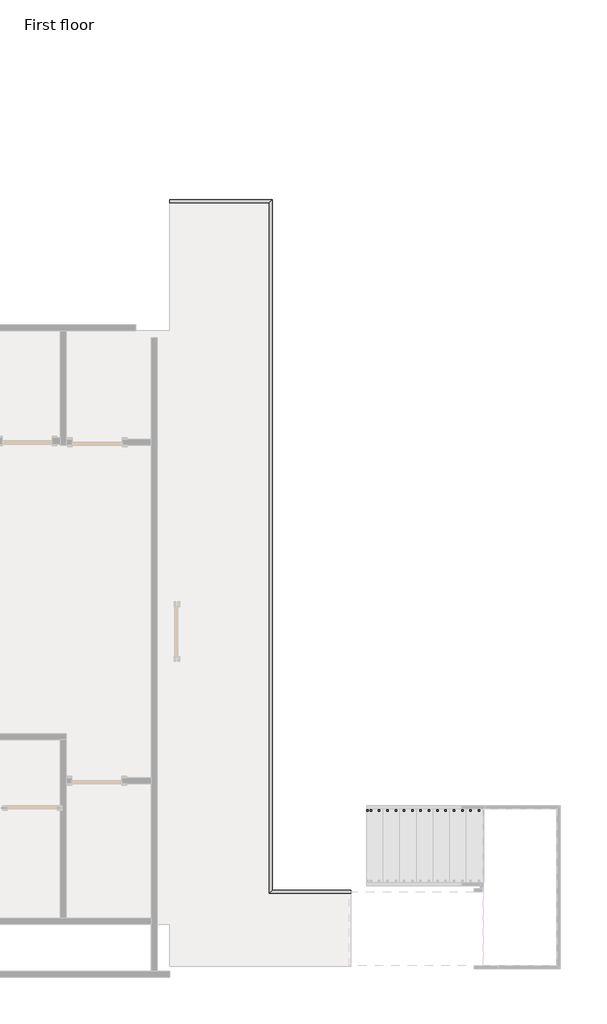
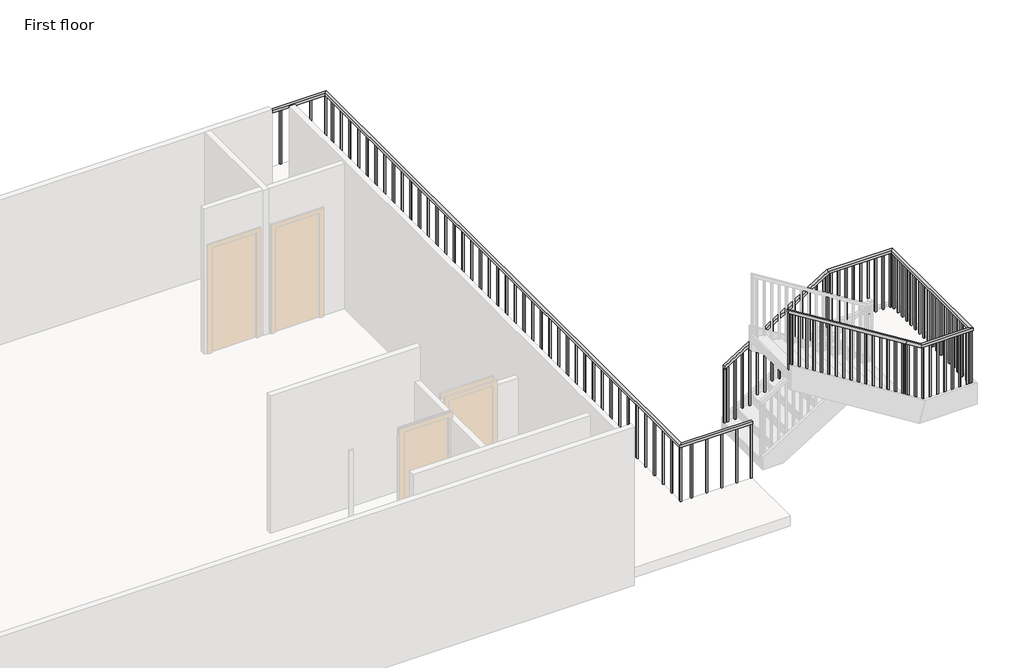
# One storey, part 4 of 5: 2 railings.
"""IFC4 building model written with IfcOpenShell, lengths in millimetres."""

from ifc_helpers import new_model, si_unit, frame, origin, place, context, project, spatial, polyline, outline, extrude, faceted_brep, element, save

model = new_model("IFC4")

# Units and contexts
model_context = context("Model", 3, world=origin())
ifc_project = project(units=[si_unit("LENGTHUNIT", "METRE", prefix="MILLI")], contexts=[model_context])

# Site, building, storey
site = spatial("IfcSite", under=ifc_project)
building = spatial("IfcBuilding", under=site)
storey = spatial("IfcBuildingStorey", under=building, Name="First floor", Elevation=48170.0)

# Railings
placement = place(None, origin())
element("IfcRailing", 1, ObjectType="1100mm", at=placement, inside=storey, context=model_context, shape_type="SolidModel", body=[
    faceted_brep([(-77698.5913038, 14647.0703267, 49438.0650943), (-77698.5913038, 14647.0703267, 49379.1698361), (-77698.5913038, 14597.0703267, 49379.1698361), (-77698.5913038, 14597.0703267, 49438.0650943), (-75808.5913038, 14647.0703267, 50614.5207547), (-75794.3008902, 14647.0703267, 50564.5207547), (-75794.3008902, 14597.0703267, 50564.5207547), (-75808.5913038, 14597.0703267, 50614.5207547), (-74608.9913038, 14647.0703267, 50614.5207547), (-74608.9913038, 14647.0703267, 50564.5207547), (-74658.9913038, 14597.0703267, 50564.5207547), (-74658.9913038, 14597.0703267, 50614.5207547), (-74608.9913038, 12097.501051, 50614.5207547), (-74608.9913038, 12097.501051, 50564.5207547), (-74658.9913038, 12147.501051, 50564.5207547), (-74658.9913038, 12147.501051, 50614.5207547), (-75538.5913038, 12097.501051, 50614.5207547), (-75552.8817174, 12097.501051, 50564.5207547), (-75552.8817174, 12147.501051, 50564.5207547), (-75538.5913038, 12147.501051, 50614.5207547), (-75808.5913038, 12097.501051, 50782.585849), (-75835.0137753, 12097.501051, 50740.1376099), (-75835.0137753, 12147.501051, 50740.1376099), (-75808.5913038, 12147.501051, 50782.585849), (-77968.5913038, 12097.501051, 52127.1066037), (-77968.5913038, 12147.501051, 52127.1066037), (-77968.5913038, 12147.501051, 52068.2113455), (-77968.5913038, 12097.501051, 52068.2113455)], [[[0, 1, 2, 3]], [[1, 0, 4, 5]], [[2, 1, 5, 6]], [[3, 2, 6, 7]], [[0, 3, 7, 4]], [[5, 4, 8, 9]], [[6, 5, 9, 10]], [[7, 6, 10, 11]], [[4, 7, 11, 8]], [[9, 8, 12, 13]], [[10, 9, 13, 14]], [[11, 10, 14, 15]], [[8, 11, 15, 12]], [[13, 12, 16, 17]], [[14, 13, 17, 18]], [[15, 14, 18, 19]], [[12, 15, 19, 16]], [[17, 16, 20, 21]], [[18, 17, 21, 22]], [[19, 18, 22, 23]], [[16, 19, 23, 20]], [[24, 25, 26, 27]], [[21, 20, 24, 27]], [[22, 21, 27, 26]], [[23, 22, 26, 25]], [[20, 23, 25, 24]]]),
    extrude(outline(polyline([(52018.4142805, -77888.5913038), (52033.9758633, -77913.5913038), (50859.0415094, -77913.5913038), (50859.0415094, -77888.5913038), (52018.4142805, -77888.5913038)])), frame((0.0, 12110.001051, 0.0), z_axis=(0.0, 1.0, 0.0), x_axis=(0.0, 0.0, 1.0)), (0.0, 0.0, 1.0), 25.0),
    extrude(outline(polyline([(51934.3817333, -77753.5913038), (51949.9433161, -77778.5913038), (50859.0415094, -77778.5913038), (50859.0415094, -77753.5913038), (51934.3817333, -77753.5913038)])), frame((0.0, 12110.001051, 0.0), z_axis=(0.0, 1.0, 0.0), x_axis=(0.0, 0.0, 1.0)), (0.0, 0.0, 1.0), 25.0),
    extrude(outline(polyline([(51850.3491862, -77618.5913038), (51865.910769, -77643.5913038), (50690.976415, -77643.5913038), (50690.976415, -77618.5913038), (51850.3491862, -77618.5913038)])), frame((0.0, 12110.001051, 0.0), z_axis=(0.0, 1.0, 0.0), x_axis=(0.0, 0.0, 1.0)), (0.0, 0.0, 1.0), 25.0),
    extrude(outline(polyline([(51766.316639, -77483.5913038), (51781.8782218, -77508.5913038), (50690.976415, -77508.5913038), (50690.976415, -77483.5913038), (51766.316639, -77483.5913038)])), frame((0.0, 12110.001051, 0.0), z_axis=(0.0, 1.0, 0.0), x_axis=(0.0, 0.0, 1.0)), (0.0, 0.0, 1.0), 25.0),
    extrude(outline(polyline([(51682.2840918, -77348.5913038), (51697.8456746, -77373.5913038), (50522.9113207, -77373.5913038), (50522.9113207, -77348.5913038), (51682.2840918, -77348.5913038)])), frame((0.0, 12110.001051, 0.0), z_axis=(0.0, 1.0, 0.0), x_axis=(0.0, 0.0, 1.0)), (0.0, 0.0, 1.0), 25.0),
    extrude(outline(polyline([(51598.2515447, -77213.5913038), (51613.8131275, -77238.5913038), (50522.9113207, -77238.5913038), (50522.9113207, -77213.5913038), (51598.2515447, -77213.5913038)])), frame((0.0, 12110.001051, 0.0), z_axis=(0.0, 1.0, 0.0), x_axis=(0.0, 0.0, 1.0)), (0.0, 0.0, 1.0), 25.0),
    extrude(outline(polyline([(51514.2189975, -77078.5913038), (51529.7805803, -77103.5913038), (50354.8462263, -77103.5913038), (50354.8462263, -77078.5913038), (51514.2189975, -77078.5913038)])), frame((0.0, 12110.001051, 0.0), z_axis=(0.0, 1.0, 0.0), x_axis=(0.0, 0.0, 1.0)), (0.0, 0.0, 1.0), 25.0),
    extrude(outline(polyline([(51430.1864503, -76943.5913038), (51445.7480331, -76968.5913038), (50354.8462263, -76968.5913038), (50354.8462263, -76943.5913038), (51430.1864503, -76943.5913038)])), frame((0.0, 12110.001051, 0.0), z_axis=(0.0, 1.0, 0.0), x_axis=(0.0, 0.0, 1.0)), (0.0, 0.0, 1.0), 25.0),
    extrude(outline(polyline([(51346.1539032, -76808.5913038), (51361.715486, -76833.5913038), (50186.781132, -76833.5913038), (50186.781132, -76808.5913038), (51346.1539032, -76808.5913038)])), frame((0.0, 12110.001051, 0.0), z_axis=(0.0, 1.0, 0.0), x_axis=(0.0, 0.0, 1.0)), (0.0, 0.0, 1.0), 25.0),
    extrude(outline(polyline([(51262.121356, -76673.5913038), (51277.6829388, -76698.5913038), (50186.781132, -76698.5913038), (50186.781132, -76673.5913038), (51262.121356, -76673.5913038)])), frame((0.0, 12110.001051, 0.0), z_axis=(0.0, 1.0, 0.0), x_axis=(0.0, 0.0, 1.0)), (0.0, 0.0, 1.0), 25.0),
    extrude(outline(polyline([(51178.0888088, -76538.5913038), (51193.6503916, -76563.5913038), (50018.7160377, -76563.5913038), (50018.7160377, -76538.5913038), (51178.0888088, -76538.5913038)])), frame((0.0, 12110.001051, 0.0), z_axis=(0.0, 1.0, 0.0), x_axis=(0.0, 0.0, 1.0)), (0.0, 0.0, 1.0), 25.0),
    extrude(outline(polyline([(51094.0562617, -76403.5913038), (51109.6178445, -76428.5913038), (50018.7160377, -76428.5913038), (50018.7160377, -76403.5913038), (51094.0562617, -76403.5913038)])), frame((0.0, 12110.001051, 0.0), z_axis=(0.0, 1.0, 0.0), x_axis=(0.0, 0.0, 1.0)), (0.0, 0.0, 1.0), 25.0),
    extrude(outline(polyline([(51010.0237145, -76268.5913038), (51025.5852973, -76293.5913038), (49850.6509433, -76293.5913038), (49850.6509433, -76268.5913038), (51010.0237145, -76268.5913038)])), frame((0.0, 12110.001051, 0.0), z_axis=(0.0, 1.0, 0.0), x_axis=(0.0, 0.0, 1.0)), (0.0, 0.0, 1.0), 25.0),
    extrude(outline(polyline([(50925.9911673, -76133.5913038), (50941.5527501, -76158.5913038), (49850.6509433, -76158.5913038), (49850.6509433, -76133.5913038), (50925.9911673, -76133.5913038)])), frame((0.0, 12110.001051, 0.0), z_axis=(0.0, 1.0, 0.0), x_axis=(0.0, 0.0, 1.0)), (0.0, 0.0, 1.0), 25.0),
    extrude(outline(polyline([(50841.9586202, -75998.5913038), (50857.520203, -76023.5913038), (49682.585849, -76023.5913038), (49682.585849, -75998.5913038), (50841.9586202, -75998.5913038)])), frame((0.0, 12110.001051, 0.0), z_axis=(0.0, 1.0, 0.0), x_axis=(0.0, 0.0, 1.0)), (0.0, 0.0, 1.0), 25.0),
    extrude(outline(polyline([(50757.926073, -75863.5913038), (50773.4876558, -75888.5913038), (49682.585849, -75888.5913038), (49682.585849, -75863.5913038), (50757.926073, -75863.5913038)])), frame((0.0, 12110.001051, 0.0), z_axis=(0.0, 1.0, 0.0), x_axis=(0.0, 0.0, 1.0)), (0.0, 0.0, 1.0), 25.0),
    extrude(outline(polyline([(50699.0410436, -75768.9913038), (50714.6026265, -75793.9913038), (49514.5207547, -75793.9913038), (49514.5207547, -75768.9913038), (50699.0410436, -75768.9913038)])), frame((0.0, 12110.001051, 0.0), z_axis=(0.0, 1.0, 0.0), x_axis=(0.0, 0.0, 1.0)), (0.0, 0.0, 1.0), 25.0),
    extrude(outline(polyline([(50615.0084965, -75633.9913038), (50630.5700793, -75658.9913038), (49514.5207547, -75658.9913038), (49514.5207547, -75633.9913038), (50615.0084965, -75633.9913038)])), frame((0.0, 12110.001051, 0.0), z_axis=(0.0, 1.0, 0.0), x_axis=(0.0, 0.0, 1.0)), (0.0, 0.0, 1.0), 25.0),
    extrude(outline(polyline([(-75498.9913038, 12110.001051), (-75523.9913038, 12110.001051), (-75523.9913038, 12135.001051), (-75498.9913038, 12135.001051), (-75498.9913038, 12110.001051)])), frame((0.0, 0.0, 49514.5207547), z_axis=(0.0, 0.0, 1.0), x_axis=(1.0, 0.0, 0.0)), (0.0, 0.0, 1.0), 1050.0),
    extrude(outline(polyline([(-75363.9913038, 12110.001051), (-75388.9913038, 12110.001051), (-75388.9913038, 12135.001051), (-75363.9913038, 12135.001051), (-75363.9913038, 12110.001051)])), frame((0.0, 0.0, 49514.5207547), z_axis=(0.0, 0.0, 1.0), x_axis=(1.0, 0.0, 0.0)), (0.0, 0.0, 1.0), 1050.0),
    extrude(outline(polyline([(-75228.9913038, 12110.001051), (-75253.9913038, 12110.001051), (-75253.9913038, 12135.001051), (-75228.9913038, 12135.001051), (-75228.9913038, 12110.001051)])), frame((0.0, 0.0, 49514.5207547), z_axis=(0.0, 0.0, 1.0), x_axis=(1.0, 0.0, 0.0)), (0.0, 0.0, 1.0), 1050.0),
    extrude(outline(polyline([(-75093.9913038, 12110.001051), (-75118.9913038, 12110.001051), (-75118.9913038, 12135.001051), (-75093.9913038, 12135.001051), (-75093.9913038, 12110.001051)])), frame((0.0, 0.0, 49514.5207547), z_axis=(0.0, 0.0, 1.0), x_axis=(1.0, 0.0, 0.0)), (0.0, 0.0, 1.0), 1050.0),
    extrude(outline(polyline([(-74958.9913038, 12110.001051), (-74983.9913038, 12110.001051), (-74983.9913038, 12135.001051), (-74958.9913038, 12135.001051), (-74958.9913038, 12110.001051)])), frame((0.0, 0.0, 49514.5207547), z_axis=(0.0, 0.0, 1.0), x_axis=(1.0, 0.0, 0.0)), (0.0, 0.0, 1.0), 1050.0),
    extrude(outline(polyline([(-74823.9913038, 12110.001051), (-74848.9913038, 12110.001051), (-74848.9913038, 12135.001051), (-74823.9913038, 12135.001051), (-74823.9913038, 12110.001051)])), frame((0.0, 0.0, 49514.5207547), z_axis=(0.0, 0.0, 1.0), x_axis=(1.0, 0.0, 0.0)), (0.0, 0.0, 1.0), 1050.0),
    extrude(outline(polyline([(-74688.9913038, 12110.001051), (-74713.9913038, 12110.001051), (-74713.9913038, 12135.001051), (-74688.9913038, 12135.001051), (-74688.9913038, 12110.001051)])), frame((0.0, 0.0, 49514.5207547), z_axis=(0.0, 0.0, 1.0), x_axis=(1.0, 0.0, 0.0)), (0.0, 0.0, 1.0), 1050.0),
    extrude(outline(polyline([(-74621.4913038, 12137.0703267), (-74621.4913038, 12112.0703267), (-74646.4913038, 12112.0703267), (-74646.4913038, 12137.0703267), (-74621.4913038, 12137.0703267)])), frame((0.0, 0.0, 49514.5207547), z_axis=(0.0, 0.0, 1.0), x_axis=(1.0, 0.0, 0.0)), (0.0, 0.0, 1.0), 1050.0),
    extrude(outline(polyline([(-74621.4913038, 12272.0703267), (-74621.4913038, 12247.0703267), (-74646.4913038, 12247.0703267), (-74646.4913038, 12272.0703267), (-74621.4913038, 12272.0703267)])), frame((0.0, 0.0, 49514.5207547), z_axis=(0.0, 0.0, 1.0), x_axis=(1.0, 0.0, 0.0)), (0.0, 0.0, 1.0), 1050.0),
    extrude(outline(polyline([(-74621.4913038, 12407.0703267), (-74621.4913038, 12382.0703267), (-74646.4913038, 12382.0703267), (-74646.4913038, 12407.0703267), (-74621.4913038, 12407.0703267)])), frame((0.0, 0.0, 49514.5207547), z_axis=(0.0, 0.0, 1.0), x_axis=(1.0, 0.0, 0.0)), (0.0, 0.0, 1.0), 1050.0),
    extrude(outline(polyline([(-74621.4913038, 12542.0703267), (-74621.4913038, 12517.0703267), (-74646.4913038, 12517.0703267), (-74646.4913038, 12542.0703267), (-74621.4913038, 12542.0703267)])), frame((0.0, 0.0, 49514.5207547), z_axis=(0.0, 0.0, 1.0), x_axis=(1.0, 0.0, 0.0)), (0.0, 0.0, 1.0), 1050.0),
    extrude(outline(polyline([(-74621.4913038, 12677.0703267), (-74621.4913038, 12652.0703267), (-74646.4913038, 12652.0703267), (-74646.4913038, 12677.0703267), (-74621.4913038, 12677.0703267)])), frame((0.0, 0.0, 49514.5207547), z_axis=(0.0, 0.0, 1.0), x_axis=(1.0, 0.0, 0.0)), (0.0, 0.0, 1.0), 1050.0),
    extrude(outline(polyline([(-74621.4913038, 12812.0703267), (-74621.4913038, 12787.0703267), (-74646.4913038, 12787.0703267), (-74646.4913038, 12812.0703267), (-74621.4913038, 12812.0703267)])), frame((0.0, 0.0, 49514.5207547), z_axis=(0.0, 0.0, 1.0), x_axis=(1.0, 0.0, 0.0)), (0.0, 0.0, 1.0), 1050.0),
    extrude(outline(polyline([(-74621.4913038, 12947.0703267), (-74621.4913038, 12922.0703267), (-74646.4913038, 12922.0703267), (-74646.4913038, 12947.0703267), (-74621.4913038, 12947.0703267)])), frame((0.0, 0.0, 49514.5207547), z_axis=(0.0, 0.0, 1.0), x_axis=(1.0, 0.0, 0.0)), (0.0, 0.0, 1.0), 1050.0),
    extrude(outline(polyline([(-74621.4913038, 13082.0703267), (-74621.4913038, 13057.0703267), (-74646.4913038, 13057.0703267), (-74646.4913038, 13082.0703267), (-74621.4913038, 13082.0703267)])), frame((0.0, 0.0, 49514.5207547), z_axis=(0.0, 0.0, 1.0), x_axis=(1.0, 0.0, 0.0)), (0.0, 0.0, 1.0), 1050.0),
    extrude(outline(polyline([(-74621.4913038, 13217.0703267), (-74621.4913038, 13192.0703267), (-74646.4913038, 13192.0703267), (-74646.4913038, 13217.0703267), (-74621.4913038, 13217.0703267)])), frame((0.0, 0.0, 49514.5207547), z_axis=(0.0, 0.0, 1.0), x_axis=(1.0, 0.0, 0.0)), (0.0, 0.0, 1.0), 1050.0),
    extrude(outline(polyline([(-74621.4913038, 13352.0703267), (-74621.4913038, 13327.0703267), (-74646.4913038, 13327.0703267), (-74646.4913038, 13352.0703267), (-74621.4913038, 13352.0703267)])), frame((0.0, 0.0, 49514.5207547), z_axis=(0.0, 0.0, 1.0), x_axis=(1.0, 0.0, 0.0)), (0.0, 0.0, 1.0), 1050.0),
    extrude(outline(polyline([(-74621.4913038, 13487.0703267), (-74621.4913038, 13462.0703267), (-74646.4913038, 13462.0703267), (-74646.4913038, 13487.0703267), (-74621.4913038, 13487.0703267)])), frame((0.0, 0.0, 49514.5207547), z_axis=(0.0, 0.0, 1.0), x_axis=(1.0, 0.0, 0.0)), (0.0, 0.0, 1.0), 1050.0),
    extrude(outline(polyline([(-74621.4913038, 13622.0703267), (-74621.4913038, 13597.0703267), (-74646.4913038, 13597.0703267), (-74646.4913038, 13622.0703267), (-74621.4913038, 13622.0703267)])), frame((0.0, 0.0, 49514.5207547), z_axis=(0.0, 0.0, 1.0), x_axis=(1.0, 0.0, 0.0)), (0.0, 0.0, 1.0), 1050.0),
    extrude(outline(polyline([(-74621.4913038, 13757.0703267), (-74621.4913038, 13732.0703267), (-74646.4913038, 13732.0703267), (-74646.4913038, 13757.0703267), (-74621.4913038, 13757.0703267)])), frame((0.0, 0.0, 49514.5207547), z_axis=(0.0, 0.0, 1.0), x_axis=(1.0, 0.0, 0.0)), (0.0, 0.0, 1.0), 1050.0),
    extrude(outline(polyline([(-74621.4913038, 13892.0703267), (-74621.4913038, 13867.0703267), (-74646.4913038, 13867.0703267), (-74646.4913038, 13892.0703267), (-74621.4913038, 13892.0703267)])), frame((0.0, 0.0, 49514.5207547), z_axis=(0.0, 0.0, 1.0), x_axis=(1.0, 0.0, 0.0)), (0.0, 0.0, 1.0), 1050.0),
    extrude(outline(polyline([(-74621.4913038, 14027.0703267), (-74621.4913038, 14002.0703267), (-74646.4913038, 14002.0703267), (-74646.4913038, 14027.0703267), (-74621.4913038, 14027.0703267)])), frame((0.0, 0.0, 49514.5207547), z_axis=(0.0, 0.0, 1.0), x_axis=(1.0, 0.0, 0.0)), (0.0, 0.0, 1.0), 1050.0),
    extrude(outline(polyline([(-74621.4913038, 14162.0703267), (-74621.4913038, 14137.0703267), (-74646.4913038, 14137.0703267), (-74646.4913038, 14162.0703267), (-74621.4913038, 14162.0703267)])), frame((0.0, 0.0, 49514.5207547), z_axis=(0.0, 0.0, 1.0), x_axis=(1.0, 0.0, 0.0)), (0.0, 0.0, 1.0), 1050.0),
    extrude(outline(polyline([(-74621.4913038, 14297.0703267), (-74621.4913038, 14272.0703267), (-74646.4913038, 14272.0703267), (-74646.4913038, 14297.0703267), (-74621.4913038, 14297.0703267)])), frame((0.0, 0.0, 49514.5207547), z_axis=(0.0, 0.0, 1.0), x_axis=(1.0, 0.0, 0.0)), (0.0, 0.0, 1.0), 1050.0),
    extrude(outline(polyline([(-74621.4913038, 14432.0703267), (-74621.4913038, 14407.0703267), (-74646.4913038, 14407.0703267), (-74646.4913038, 14432.0703267), (-74621.4913038, 14432.0703267)])), frame((0.0, 0.0, 49514.5207547), z_axis=(0.0, 0.0, 1.0), x_axis=(1.0, 0.0, 0.0)), (0.0, 0.0, 1.0), 1050.0),
    extrude(outline(polyline([(-74621.4913038, 14567.0703267), (-74621.4913038, 14542.0703267), (-74646.4913038, 14542.0703267), (-74646.4913038, 14567.0703267), (-74621.4913038, 14567.0703267)])), frame((0.0, 0.0, 49514.5207547), z_axis=(0.0, 0.0, 1.0), x_axis=(1.0, 0.0, 0.0)), (0.0, 0.0, 1.0), 1050.0),
    extrude(outline(polyline([(-74673.5913038, 14634.5703267), (-74648.5913038, 14634.5703267), (-74648.5913038, 14609.5703267), (-74673.5913038, 14609.5703267), (-74673.5913038, 14634.5703267)])), frame((0.0, 0.0, 49514.5207547), z_axis=(0.0, 0.0, 1.0), x_axis=(1.0, 0.0, 0.0)), (0.0, 0.0, 1.0), 1050.0),
    extrude(outline(polyline([(-74808.5913038, 14634.5703267), (-74783.5913038, 14634.5703267), (-74783.5913038, 14609.5703267), (-74808.5913038, 14609.5703267), (-74808.5913038, 14634.5703267)])), frame((0.0, 0.0, 49514.5207547), z_axis=(0.0, 0.0, 1.0), x_axis=(1.0, 0.0, 0.0)), (0.0, 0.0, 1.0), 1050.0),
    extrude(outline(polyline([(-74943.5913038, 14634.5703267), (-74918.5913038, 14634.5703267), (-74918.5913038, 14609.5703267), (-74943.5913038, 14609.5703267), (-74943.5913038, 14634.5703267)])), frame((0.0, 0.0, 49514.5207547), z_axis=(0.0, 0.0, 1.0), x_axis=(1.0, 0.0, 0.0)), (0.0, 0.0, 1.0), 1050.0),
    extrude(outline(polyline([(-75078.5913038, 14634.5703267), (-75053.5913038, 14634.5703267), (-75053.5913038, 14609.5703267), (-75078.5913038, 14609.5703267), (-75078.5913038, 14634.5703267)])), frame((0.0, 0.0, 49514.5207547), z_axis=(0.0, 0.0, 1.0), x_axis=(1.0, 0.0, 0.0)), (0.0, 0.0, 1.0), 1050.0),
    extrude(outline(polyline([(-75213.5913038, 14634.5703267), (-75188.5913038, 14634.5703267), (-75188.5913038, 14609.5703267), (-75213.5913038, 14609.5703267), (-75213.5913038, 14634.5703267)])), frame((0.0, 0.0, 49514.5207547), z_axis=(0.0, 0.0, 1.0), x_axis=(1.0, 0.0, 0.0)), (0.0, 0.0, 1.0), 1050.0),
    extrude(outline(polyline([(-75348.5913038, 14634.5703267), (-75323.5913038, 14634.5703267), (-75323.5913038, 14609.5703267), (-75348.5913038, 14609.5703267), (-75348.5913038, 14634.5703267)])), frame((0.0, 0.0, 49514.5207547), z_axis=(0.0, 0.0, 1.0), x_axis=(1.0, 0.0, 0.0)), (0.0, 0.0, 1.0), 1050.0),
    extrude(outline(polyline([(-75483.5913038, 14634.5703267), (-75458.5913038, 14634.5703267), (-75458.5913038, 14609.5703267), (-75483.5913038, 14609.5703267), (-75483.5913038, 14634.5703267)])), frame((0.0, 0.0, 49514.5207547), z_axis=(0.0, 0.0, 1.0), x_axis=(1.0, 0.0, 0.0)), (0.0, 0.0, 1.0), 1050.0),
    extrude(outline(polyline([(-75618.5913038, 14634.5703267), (-75593.5913038, 14634.5703267), (-75593.5913038, 14609.5703267), (-75618.5913038, 14609.5703267), (-75618.5913038, 14634.5703267)])), frame((0.0, 0.0, 49514.5207547), z_axis=(0.0, 0.0, 1.0), x_axis=(1.0, 0.0, 0.0)), (0.0, 0.0, 1.0), 1050.0),
    extrude(outline(polyline([(-75753.5913038, 14634.5703267), (-75728.5913038, 14634.5703267), (-75728.5913038, 14609.5703267), (-75753.5913038, 14609.5703267), (-75753.5913038, 14634.5703267)])), frame((0.0, 0.0, 49514.5207547), z_axis=(0.0, 0.0, 1.0), x_axis=(1.0, 0.0, 0.0)), (0.0, 0.0, 1.0), 1050.0),
    extrude(outline(polyline([(49346.4556603, -75888.5913038), (49346.4556603, -75863.5913038), (50521.3900143, -75863.5913038), (50505.8284315, -75888.5913038), (49346.4556603, -75888.5913038)])), frame((0.0, 14609.5703267, 0.0), z_axis=(0.0, 1.0, 0.0), x_axis=(0.0, 0.0, 1.0)), (0.0, 0.0, 1.0), 25.0),
    extrude(outline(polyline([(49346.4556603, -76023.5913038), (49346.4556603, -75998.5913038), (50437.3574671, -75998.5913038), (50421.7958843, -76023.5913038), (49346.4556603, -76023.5913038)])), frame((0.0, 14609.5703267, 0.0), z_axis=(0.0, 1.0, 0.0), x_axis=(0.0, 0.0, 1.0)), (0.0, 0.0, 1.0), 25.0),
    extrude(outline(polyline([(49178.390566, -76158.5913038), (49178.390566, -76133.5913038), (50353.32492, -76133.5913038), (50337.7633372, -76158.5913038), (49178.390566, -76158.5913038)])), frame((0.0, 14609.5703267, 0.0), z_axis=(0.0, 1.0, 0.0), x_axis=(0.0, 0.0, 1.0)), (0.0, 0.0, 1.0), 25.0),
    extrude(outline(polyline([(49178.390566, -76293.5913038), (49178.390566, -76268.5913038), (50269.2923728, -76268.5913038), (50253.73079, -76293.5913038), (49178.390566, -76293.5913038)])), frame((0.0, 14609.5703267, 0.0), z_axis=(0.0, 1.0, 0.0), x_axis=(0.0, 0.0, 1.0)), (0.0, 0.0, 1.0), 25.0),
    extrude(outline(polyline([(49010.3254717, -76428.5913038), (49010.3254717, -76403.5913038), (50185.2598256, -76403.5913038), (50169.6982428, -76428.5913038), (49010.3254717, -76428.5913038)])), frame((0.0, 14609.5703267, 0.0), z_axis=(0.0, 1.0, 0.0), x_axis=(0.0, 0.0, 1.0)), (0.0, 0.0, 1.0), 25.0),
    extrude(outline(polyline([(49010.3254717, -76563.5913038), (49010.3254717, -76538.5913038), (50101.2272785, -76538.5913038), (50085.6656957, -76563.5913038), (49010.3254717, -76563.5913038)])), frame((0.0, 14609.5703267, 0.0), z_axis=(0.0, 1.0, 0.0), x_axis=(0.0, 0.0, 1.0)), (0.0, 0.0, 1.0), 25.0),
    extrude(outline(polyline([(48842.2603773, -76698.5913038), (48842.2603773, -76673.5913038), (50017.1947313, -76673.5913038), (50001.6331485, -76698.5913038), (48842.2603773, -76698.5913038)])), frame((0.0, 14609.5703267, 0.0), z_axis=(0.0, 1.0, 0.0), x_axis=(0.0, 0.0, 1.0)), (0.0, 0.0, 1.0), 25.0),
    extrude(outline(polyline([(48842.2603773, -76833.5913038), (48842.2603773, -76808.5913038), (49933.1621841, -76808.5913038), (49917.6006013, -76833.5913038), (48842.2603773, -76833.5913038)])), frame((0.0, 14609.5703267, 0.0), z_axis=(0.0, 1.0, 0.0), x_axis=(0.0, 0.0, 1.0)), (0.0, 0.0, 1.0), 25.0),
    extrude(outline(polyline([(48674.195283, -76968.5913038), (48674.195283, -76943.5913038), (49849.129637, -76943.5913038), (49833.5680542, -76968.5913038), (48674.195283, -76968.5913038)])), frame((0.0, 14609.5703267, 0.0), z_axis=(0.0, 1.0, 0.0), x_axis=(0.0, 0.0, 1.0)), (0.0, 0.0, 1.0), 25.0),
    extrude(outline(polyline([(48674.195283, -77103.5913038), (48674.195283, -77078.5913038), (49765.0970898, -77078.5913038), (49749.535507, -77103.5913038), (48674.195283, -77103.5913038)])), frame((0.0, 14609.5703267, 0.0), z_axis=(0.0, 1.0, 0.0), x_axis=(0.0, 0.0, 1.0)), (0.0, 0.0, 1.0), 25.0),
    extrude(outline(polyline([(48506.1301887, -77238.5913038), (48506.1301887, -77213.5913038), (49681.0645426, -77213.5913038), (49665.5029598, -77238.5913038), (48506.1301887, -77238.5913038)])), frame((0.0, 14609.5703267, 0.0), z_axis=(0.0, 1.0, 0.0), x_axis=(0.0, 0.0, 1.0)), (0.0, 0.0, 1.0), 25.0),
    extrude(outline(polyline([(48506.1301887, -77373.5913038), (48506.1301887, -77348.5913038), (49597.0319955, -77348.5913038), (49581.4704127, -77373.5913038), (48506.1301887, -77373.5913038)])), frame((0.0, 14609.5703267, 0.0), z_axis=(0.0, 1.0, 0.0), x_axis=(0.0, 0.0, 1.0)), (0.0, 0.0, 1.0), 25.0),
    extrude(outline(polyline([(48338.0650943, -77508.5913038), (48338.0650943, -77483.5913038), (49512.9994483, -77483.5913038), (49497.4378655, -77508.5913038), (48338.0650943, -77508.5913038)])), frame((0.0, 14609.5703267, 0.0), z_axis=(0.0, 1.0, 0.0), x_axis=(0.0, 0.0, 1.0)), (0.0, 0.0, 1.0), 25.0),
    extrude(outline(polyline([(48338.0650943, -77643.5913038), (48338.0650943, -77618.5913038), (49428.9669011, -77618.5913038), (49413.4053183, -77643.5913038), (48338.0650943, -77643.5913038)])), frame((0.0, 14609.5703267, 0.0), z_axis=(0.0, 1.0, 0.0), x_axis=(0.0, 0.0, 1.0)), (0.0, 0.0, 1.0), 25.0),
    extrude(outline(polyline([(50715.9097994, -75796.0913038), (50731.4713822, -75821.0913038), (49514.5207547, -75821.0913038), (49514.5207547, -75796.0913038), (50715.9097994, -75796.0913038)])), frame((0.0, 12110.001051, 0.0), z_axis=(0.0, 1.0, 0.0), x_axis=(0.0, 0.0, 1.0)), (0.0, 0.0, 1.0), 25.0),
    extrude(outline(polyline([(-74621.4913038, 12135.001051), (-74621.4913038, 12110.001051), (-74646.4913038, 12110.001051), (-74646.4913038, 12135.001051), (-74621.4913038, 12135.001051)])), frame((0.0, 0.0, 49514.5207547), z_axis=(0.0, 0.0, 1.0), x_axis=(1.0, 0.0, 0.0)), (0.0, 0.0, 1.0), 1050.0),
    extrude(outline(polyline([(-74646.4913038, 14634.5703267), (-74621.4913038, 14634.5703267), (-74621.4913038, 14609.5703267), (-74646.4913038, 14609.5703267), (-74646.4913038, 14634.5703267)])), frame((0.0, 0.0, 49514.5207547), z_axis=(0.0, 0.0, 1.0), x_axis=(1.0, 0.0, 0.0)), (0.0, 0.0, 1.0), 1050.0),
    extrude(outline(polyline([(49514.5207547, -75821.0913038), (49514.5207547, -75796.0913038), (50563.4062879, -75796.0913038), (50547.8447051, -75821.0913038), (49514.5207547, -75821.0913038)])), frame((0.0, 14609.5703267, 0.0), z_axis=(0.0, 1.0, 0.0), x_axis=(0.0, 0.0, 1.0)), (0.0, 0.0, 1.0), 25.0),
    extrude(outline(polyline([(52052.6497627, -77943.5913038), (52068.2113455, -77968.5913038), (50859.0415094, -77968.5913038), (50859.0415094, -77943.5913038), (52052.6497627, -77943.5913038)])), frame((0.0, 12110.001051, 0.0), z_axis=(0.0, 1.0, 0.0), x_axis=(0.0, 0.0, 1.0)), (0.0, 0.0, 1.0), 25.0),
    extrude(outline(polyline([(48338.0650943, -77698.5913038), (48338.0650943, -77673.5913038), (49394.7314189, -77673.5913038), (49379.1698361, -77698.5913038), (48338.0650943, -77698.5913038)])), frame((0.0, 14609.5703267, 0.0), z_axis=(0.0, 1.0, 0.0), x_axis=(0.0, 0.0, 1.0)), (0.0, 0.0, 1.0), 25.0),
])
element("IfcRailing", 2, ObjectType="1100mm", at=placement, inside=storey, context=model_context, shape_type="SolidModel", body=[
    faceted_brep([(-79278.9903559, 13272.101051, 49220.0), (-79278.9903559, 13272.101051, 49270.0), (-79278.9903559, 24486.6777512, 49270.0), (-79278.9903559, 24486.6777512, 49220.0), (-79228.9903559, 13322.101051, 49220.0), (-79228.9903559, 24536.6777512, 49220.0), (-79228.9903559, 13322.101051, 49270.0), (-79228.9903559, 24536.6777512, 49270.0), (-80897.1407976, 24486.6777512, 49270.0), (-80897.1407976, 24536.6777512, 49270.0), (-80897.1407976, 24536.6777512, 49220.0), (-80897.1407976, 24486.6777512, 49220.0), (-77953.9903559, 13272.101051, 49270.0), (-77953.9903559, 13272.101051, 49220.0), (-77953.9903559, 13322.101051, 49220.0), (-77953.9903559, 13322.101051, 49270.0)], [[[0, 1, 2, 3]], [[4, 0, 3, 5]], [[6, 4, 5, 7]], [[1, 6, 7, 2]], [[8, 9, 10, 11]], [[3, 2, 8, 11]], [[5, 3, 11, 10]], [[7, 5, 10, 9]], [[2, 7, 9, 8]], [[12, 13, 14, 15]], [[13, 12, 1, 0]], [[14, 13, 0, 4]], [[15, 14, 4, 6]], [[12, 15, 6, 1]]]),
    extrude(outline(polyline([(-80616.4903559, 24524.1777512), (-80616.4903559, 24499.1777512), (-80641.4903559, 24499.1777512), (-80641.4903559, 24524.1777512), (-80616.4903559, 24524.1777512)])), frame((0.0, 0.0, 48170.0), z_axis=(0.0, 0.0, 1.0), x_axis=(1.0, 0.0, 0.0)), (0.0, 0.0, 1.0), 1050.0),
    extrude(outline(polyline([(-80341.4903559, 24524.1777512), (-80341.4903559, 24499.1777512), (-80366.4903559, 24499.1777512), (-80366.4903559, 24524.1777512), (-80341.4903559, 24524.1777512)])), frame((0.0, 0.0, 48170.0), z_axis=(0.0, 0.0, 1.0), x_axis=(1.0, 0.0, 0.0)), (0.0, 0.0, 1.0), 1050.0),
    extrude(outline(polyline([(-80066.4903559, 24524.1777512), (-80066.4903559, 24499.1777512), (-80091.4903559, 24499.1777512), (-80091.4903559, 24524.1777512), (-80066.4903559, 24524.1777512)])), frame((0.0, 0.0, 48170.0), z_axis=(0.0, 0.0, 1.0), x_axis=(1.0, 0.0, 0.0)), (0.0, 0.0, 1.0), 1050.0),
    extrude(outline(polyline([(-79791.4903559, 24524.1777512), (-79791.4903559, 24499.1777512), (-79816.4903559, 24499.1777512), (-79816.4903559, 24524.1777512), (-79791.4903559, 24524.1777512)])), frame((0.0, 0.0, 48170.0), z_axis=(0.0, 0.0, 1.0), x_axis=(1.0, 0.0, 0.0)), (0.0, 0.0, 1.0), 1050.0),
    extrude(outline(polyline([(-79516.4903559, 24524.1777512), (-79516.4903559, 24499.1777512), (-79541.4903559, 24499.1777512), (-79541.4903559, 24524.1777512), (-79516.4903559, 24524.1777512)])), frame((0.0, 0.0, 48170.0), z_axis=(0.0, 0.0, 1.0), x_axis=(1.0, 0.0, 0.0)), (0.0, 0.0, 1.0), 1050.0),
    extrude(outline(polyline([(-79241.4903559, 24284.601051), (-79266.4903559, 24284.601051), (-79266.4903559, 24309.601051), (-79241.4903559, 24309.601051), (-79241.4903559, 24284.601051)])), frame((0.0, 0.0, 48170.0), z_axis=(0.0, 0.0, 1.0), x_axis=(1.0, 0.0, 0.0)), (0.0, 0.0, 1.0), 1050.0),
    extrude(outline(polyline([(-79241.4903559, 24009.601051), (-79266.4903559, 24009.601051), (-79266.4903559, 24034.601051), (-79241.4903559, 24034.601051), (-79241.4903559, 24009.601051)])), frame((0.0, 0.0, 48170.0), z_axis=(0.0, 0.0, 1.0), x_axis=(1.0, 0.0, 0.0)), (0.0, 0.0, 1.0), 1050.0),
    extrude(outline(polyline([(-79241.4903559, 23734.601051), (-79266.4903559, 23734.601051), (-79266.4903559, 23759.601051), (-79241.4903559, 23759.601051), (-79241.4903559, 23734.601051)])), frame((0.0, 0.0, 48170.0), z_axis=(0.0, 0.0, 1.0), x_axis=(1.0, 0.0, 0.0)), (0.0, 0.0, 1.0), 1050.0),
    extrude(outline(polyline([(-79241.4903559, 23459.601051), (-79266.4903559, 23459.601051), (-79266.4903559, 23484.601051), (-79241.4903559, 23484.601051), (-79241.4903559, 23459.601051)])), frame((0.0, 0.0, 48170.0), z_axis=(0.0, 0.0, 1.0), x_axis=(1.0, 0.0, 0.0)), (0.0, 0.0, 1.0), 1050.0),
    extrude(outline(polyline([(-79241.4903559, 23184.601051), (-79266.4903559, 23184.601051), (-79266.4903559, 23209.601051), (-79241.4903559, 23209.601051), (-79241.4903559, 23184.601051)])), frame((0.0, 0.0, 48170.0), z_axis=(0.0, 0.0, 1.0), x_axis=(1.0, 0.0, 0.0)), (0.0, 0.0, 1.0), 1050.0),
    extrude(outline(polyline([(-79241.4903559, 22909.601051), (-79266.4903559, 22909.601051), (-79266.4903559, 22934.601051), (-79241.4903559, 22934.601051), (-79241.4903559, 22909.601051)])), frame((0.0, 0.0, 48170.0), z_axis=(0.0, 0.0, 1.0), x_axis=(1.0, 0.0, 0.0)), (0.0, 0.0, 1.0), 1050.0),
    extrude(outline(polyline([(-79241.4903559, 22634.601051), (-79266.4903559, 22634.601051), (-79266.4903559, 22659.601051), (-79241.4903559, 22659.601051), (-79241.4903559, 22634.601051)])), frame((0.0, 0.0, 48170.0), z_axis=(0.0, 0.0, 1.0), x_axis=(1.0, 0.0, 0.0)), (0.0, 0.0, 1.0), 1050.0),
    extrude(outline(polyline([(-79241.4903559, 22359.601051), (-79266.4903559, 22359.601051), (-79266.4903559, 22384.601051), (-79241.4903559, 22384.601051), (-79241.4903559, 22359.601051)])), frame((0.0, 0.0, 48170.0), z_axis=(0.0, 0.0, 1.0), x_axis=(1.0, 0.0, 0.0)), (0.0, 0.0, 1.0), 1050.0),
    extrude(outline(polyline([(-79241.4903559, 22084.601051), (-79266.4903559, 22084.601051), (-79266.4903559, 22109.601051), (-79241.4903559, 22109.601051), (-79241.4903559, 22084.601051)])), frame((0.0, 0.0, 48170.0), z_axis=(0.0, 0.0, 1.0), x_axis=(1.0, 0.0, 0.0)), (0.0, 0.0, 1.0), 1050.0),
    extrude(outline(polyline([(-79241.4903559, 21809.601051), (-79266.4903559, 21809.601051), (-79266.4903559, 21834.601051), (-79241.4903559, 21834.601051), (-79241.4903559, 21809.601051)])), frame((0.0, 0.0, 48170.0), z_axis=(0.0, 0.0, 1.0), x_axis=(1.0, 0.0, 0.0)), (0.0, 0.0, 1.0), 1050.0),
    extrude(outline(polyline([(-79241.4903559, 21534.601051), (-79266.4903559, 21534.601051), (-79266.4903559, 21559.601051), (-79241.4903559, 21559.601051), (-79241.4903559, 21534.601051)])), frame((0.0, 0.0, 48170.0), z_axis=(0.0, 0.0, 1.0), x_axis=(1.0, 0.0, 0.0)), (0.0, 0.0, 1.0), 1050.0),
    extrude(outline(polyline([(-79241.4903559, 21259.601051), (-79266.4903559, 21259.601051), (-79266.4903559, 21284.601051), (-79241.4903559, 21284.601051), (-79241.4903559, 21259.601051)])), frame((0.0, 0.0, 48170.0), z_axis=(0.0, 0.0, 1.0), x_axis=(1.0, 0.0, 0.0)), (0.0, 0.0, 1.0), 1050.0),
    extrude(outline(polyline([(-79241.4903559, 20984.601051), (-79266.4903559, 20984.601051), (-79266.4903559, 21009.601051), (-79241.4903559, 21009.601051), (-79241.4903559, 20984.601051)])), frame((0.0, 0.0, 48170.0), z_axis=(0.0, 0.0, 1.0), x_axis=(1.0, 0.0, 0.0)), (0.0, 0.0, 1.0), 1050.0),
    extrude(outline(polyline([(-79241.4903559, 20709.601051), (-79266.4903559, 20709.601051), (-79266.4903559, 20734.601051), (-79241.4903559, 20734.601051), (-79241.4903559, 20709.601051)])), frame((0.0, 0.0, 48170.0), z_axis=(0.0, 0.0, 1.0), x_axis=(1.0, 0.0, 0.0)), (0.0, 0.0, 1.0), 1050.0),
    extrude(outline(polyline([(-79241.4903559, 20434.601051), (-79266.4903559, 20434.601051), (-79266.4903559, 20459.601051), (-79241.4903559, 20459.601051), (-79241.4903559, 20434.601051)])), frame((0.0, 0.0, 48170.0), z_axis=(0.0, 0.0, 1.0), x_axis=(1.0, 0.0, 0.0)), (0.0, 0.0, 1.0), 1050.0),
    extrude(outline(polyline([(-79241.4903559, 20159.601051), (-79266.4903559, 20159.601051), (-79266.4903559, 20184.601051), (-79241.4903559, 20184.601051), (-79241.4903559, 20159.601051)])), frame((0.0, 0.0, 48170.0), z_axis=(0.0, 0.0, 1.0), x_axis=(1.0, 0.0, 0.0)), (0.0, 0.0, 1.0), 1050.0),
    extrude(outline(polyline([(-79241.4903559, 19884.601051), (-79266.4903559, 19884.601051), (-79266.4903559, 19909.601051), (-79241.4903559, 19909.601051), (-79241.4903559, 19884.601051)])), frame((0.0, 0.0, 48170.0), z_axis=(0.0, 0.0, 1.0), x_axis=(1.0, 0.0, 0.0)), (0.0, 0.0, 1.0), 1050.0),
    extrude(outline(polyline([(-79241.4903559, 19609.601051), (-79266.4903559, 19609.601051), (-79266.4903559, 19634.601051), (-79241.4903559, 19634.601051), (-79241.4903559, 19609.601051)])), frame((0.0, 0.0, 48170.0), z_axis=(0.0, 0.0, 1.0), x_axis=(1.0, 0.0, 0.0)), (0.0, 0.0, 1.0), 1050.0),
    extrude(outline(polyline([(-79241.4903559, 19334.601051), (-79266.4903559, 19334.601051), (-79266.4903559, 19359.601051), (-79241.4903559, 19359.601051), (-79241.4903559, 19334.601051)])), frame((0.0, 0.0, 48170.0), z_axis=(0.0, 0.0, 1.0), x_axis=(1.0, 0.0, 0.0)), (0.0, 0.0, 1.0), 1050.0),
    extrude(outline(polyline([(-79241.4903559, 19059.601051), (-79266.4903559, 19059.601051), (-79266.4903559, 19084.601051), (-79241.4903559, 19084.601051), (-79241.4903559, 19059.601051)])), frame((0.0, 0.0, 48170.0), z_axis=(0.0, 0.0, 1.0), x_axis=(1.0, 0.0, 0.0)), (0.0, 0.0, 1.0), 1050.0),
    extrude(outline(polyline([(-79241.4903559, 18784.601051), (-79266.4903559, 18784.601051), (-79266.4903559, 18809.601051), (-79241.4903559, 18809.601051), (-79241.4903559, 18784.601051)])), frame((0.0, 0.0, 48170.0), z_axis=(0.0, 0.0, 1.0), x_axis=(1.0, 0.0, 0.0)), (0.0, 0.0, 1.0), 1050.0),
    extrude(outline(polyline([(-79241.4903559, 18509.601051), (-79266.4903559, 18509.601051), (-79266.4903559, 18534.601051), (-79241.4903559, 18534.601051), (-79241.4903559, 18509.601051)])), frame((0.0, 0.0, 48170.0), z_axis=(0.0, 0.0, 1.0), x_axis=(1.0, 0.0, 0.0)), (0.0, 0.0, 1.0), 1050.0),
    extrude(outline(polyline([(-79241.4903559, 18234.601051), (-79266.4903559, 18234.601051), (-79266.4903559, 18259.601051), (-79241.4903559, 18259.601051), (-79241.4903559, 18234.601051)])), frame((0.0, 0.0, 48170.0), z_axis=(0.0, 0.0, 1.0), x_axis=(1.0, 0.0, 0.0)), (0.0, 0.0, 1.0), 1050.0),
    extrude(outline(polyline([(-79241.4903559, 17959.601051), (-79266.4903559, 17959.601051), (-79266.4903559, 17984.601051), (-79241.4903559, 17984.601051), (-79241.4903559, 17959.601051)])), frame((0.0, 0.0, 48170.0), z_axis=(0.0, 0.0, 1.0), x_axis=(1.0, 0.0, 0.0)), (0.0, 0.0, 1.0), 1050.0),
    extrude(outline(polyline([(-79241.4903559, 17684.601051), (-79266.4903559, 17684.601051), (-79266.4903559, 17709.601051), (-79241.4903559, 17709.601051), (-79241.4903559, 17684.601051)])), frame((0.0, 0.0, 48170.0), z_axis=(0.0, 0.0, 1.0), x_axis=(1.0, 0.0, 0.0)), (0.0, 0.0, 1.0), 1050.0),
    extrude(outline(polyline([(-79241.4903559, 17409.601051), (-79266.4903559, 17409.601051), (-79266.4903559, 17434.601051), (-79241.4903559, 17434.601051), (-79241.4903559, 17409.601051)])), frame((0.0, 0.0, 48170.0), z_axis=(0.0, 0.0, 1.0), x_axis=(1.0, 0.0, 0.0)), (0.0, 0.0, 1.0), 1050.0),
    extrude(outline(polyline([(-79241.4903559, 17134.601051), (-79266.4903559, 17134.601051), (-79266.4903559, 17159.601051), (-79241.4903559, 17159.601051), (-79241.4903559, 17134.601051)])), frame((0.0, 0.0, 48170.0), z_axis=(0.0, 0.0, 1.0), x_axis=(1.0, 0.0, 0.0)), (0.0, 0.0, 1.0), 1050.0),
    extrude(outline(polyline([(-79241.4903559, 16859.601051), (-79266.4903559, 16859.601051), (-79266.4903559, 16884.601051), (-79241.4903559, 16884.601051), (-79241.4903559, 16859.601051)])), frame((0.0, 0.0, 48170.0), z_axis=(0.0, 0.0, 1.0), x_axis=(1.0, 0.0, 0.0)), (0.0, 0.0, 1.0), 1050.0),
    extrude(outline(polyline([(-79241.4903559, 16584.601051), (-79266.4903559, 16584.601051), (-79266.4903559, 16609.601051), (-79241.4903559, 16609.601051), (-79241.4903559, 16584.601051)])), frame((0.0, 0.0, 48170.0), z_axis=(0.0, 0.0, 1.0), x_axis=(1.0, 0.0, 0.0)), (0.0, 0.0, 1.0), 1050.0),
    extrude(outline(polyline([(-79241.4903559, 16309.601051), (-79266.4903559, 16309.601051), (-79266.4903559, 16334.601051), (-79241.4903559, 16334.601051), (-79241.4903559, 16309.601051)])), frame((0.0, 0.0, 48170.0), z_axis=(0.0, 0.0, 1.0), x_axis=(1.0, 0.0, 0.0)), (0.0, 0.0, 1.0), 1050.0),
    extrude(outline(polyline([(-79241.4903559, 16034.601051), (-79266.4903559, 16034.601051), (-79266.4903559, 16059.601051), (-79241.4903559, 16059.601051), (-79241.4903559, 16034.601051)])), frame((0.0, 0.0, 48170.0), z_axis=(0.0, 0.0, 1.0), x_axis=(1.0, 0.0, 0.0)), (0.0, 0.0, 1.0), 1050.0),
    extrude(outline(polyline([(-79241.4903559, 15759.601051), (-79266.4903559, 15759.601051), (-79266.4903559, 15784.601051), (-79241.4903559, 15784.601051), (-79241.4903559, 15759.601051)])), frame((0.0, 0.0, 48170.0), z_axis=(0.0, 0.0, 1.0), x_axis=(1.0, 0.0, 0.0)), (0.0, 0.0, 1.0), 1050.0),
    extrude(outline(polyline([(-79241.4903559, 15484.601051), (-79266.4903559, 15484.601051), (-79266.4903559, 15509.601051), (-79241.4903559, 15509.601051), (-79241.4903559, 15484.601051)])), frame((0.0, 0.0, 48170.0), z_axis=(0.0, 0.0, 1.0), x_axis=(1.0, 0.0, 0.0)), (0.0, 0.0, 1.0), 1050.0),
    extrude(outline(polyline([(-79241.4903559, 15209.601051), (-79266.4903559, 15209.601051), (-79266.4903559, 15234.601051), (-79241.4903559, 15234.601051), (-79241.4903559, 15209.601051)])), frame((0.0, 0.0, 48170.0), z_axis=(0.0, 0.0, 1.0), x_axis=(1.0, 0.0, 0.0)), (0.0, 0.0, 1.0), 1050.0),
    extrude(outline(polyline([(-79241.4903559, 14934.601051), (-79266.4903559, 14934.601051), (-79266.4903559, 14959.601051), (-79241.4903559, 14959.601051), (-79241.4903559, 14934.601051)])), frame((0.0, 0.0, 48170.0), z_axis=(0.0, 0.0, 1.0), x_axis=(1.0, 0.0, 0.0)), (0.0, 0.0, 1.0), 1050.0),
    extrude(outline(polyline([(-79241.4903559, 14659.601051), (-79266.4903559, 14659.601051), (-79266.4903559, 14684.601051), (-79241.4903559, 14684.601051), (-79241.4903559, 14659.601051)])), frame((0.0, 0.0, 48170.0), z_axis=(0.0, 0.0, 1.0), x_axis=(1.0, 0.0, 0.0)), (0.0, 0.0, 1.0), 1050.0),
    extrude(outline(polyline([(-79241.4903559, 14384.601051), (-79266.4903559, 14384.601051), (-79266.4903559, 14409.601051), (-79241.4903559, 14409.601051), (-79241.4903559, 14384.601051)])), frame((0.0, 0.0, 48170.0), z_axis=(0.0, 0.0, 1.0), x_axis=(1.0, 0.0, 0.0)), (0.0, 0.0, 1.0), 1050.0),
    extrude(outline(polyline([(-79241.4903559, 14109.601051), (-79266.4903559, 14109.601051), (-79266.4903559, 14134.601051), (-79241.4903559, 14134.601051), (-79241.4903559, 14109.601051)])), frame((0.0, 0.0, 48170.0), z_axis=(0.0, 0.0, 1.0), x_axis=(1.0, 0.0, 0.0)), (0.0, 0.0, 1.0), 1050.0),
    extrude(outline(polyline([(-79241.4903559, 13834.601051), (-79266.4903559, 13834.601051), (-79266.4903559, 13859.601051), (-79241.4903559, 13859.601051), (-79241.4903559, 13834.601051)])), frame((0.0, 0.0, 48170.0), z_axis=(0.0, 0.0, 1.0), x_axis=(1.0, 0.0, 0.0)), (0.0, 0.0, 1.0), 1050.0),
    extrude(outline(polyline([(-79241.4903559, 13559.601051), (-79266.4903559, 13559.601051), (-79266.4903559, 13584.601051), (-79241.4903559, 13584.601051), (-79241.4903559, 13559.601051)])), frame((0.0, 0.0, 48170.0), z_axis=(0.0, 0.0, 1.0), x_axis=(1.0, 0.0, 0.0)), (0.0, 0.0, 1.0), 1050.0),
    extrude(outline(polyline([(-79041.4903559, 13309.601051), (-79041.4903559, 13284.601051), (-79066.4903559, 13284.601051), (-79066.4903559, 13309.601051), (-79041.4903559, 13309.601051)])), frame((0.0, 0.0, 48170.0), z_axis=(0.0, 0.0, 1.0), x_axis=(1.0, 0.0, 0.0)), (0.0, 0.0, 1.0), 1050.0),
    extrude(outline(polyline([(-78766.4903559, 13309.601051), (-78766.4903559, 13284.601051), (-78791.4903559, 13284.601051), (-78791.4903559, 13309.601051), (-78766.4903559, 13309.601051)])), frame((0.0, 0.0, 48170.0), z_axis=(0.0, 0.0, 1.0), x_axis=(1.0, 0.0, 0.0)), (0.0, 0.0, 1.0), 1050.0),
    extrude(outline(polyline([(-78491.4903559, 13309.601051), (-78491.4903559, 13284.601051), (-78516.4903559, 13284.601051), (-78516.4903559, 13309.601051), (-78491.4903559, 13309.601051)])), frame((0.0, 0.0, 48170.0), z_axis=(0.0, 0.0, 1.0), x_axis=(1.0, 0.0, 0.0)), (0.0, 0.0, 1.0), 1050.0),
    extrude(outline(polyline([(-78216.4903559, 13309.601051), (-78216.4903559, 13284.601051), (-78241.4903559, 13284.601051), (-78241.4903559, 13309.601051), (-78216.4903559, 13309.601051)])), frame((0.0, 0.0, 48170.0), z_axis=(0.0, 0.0, 1.0), x_axis=(1.0, 0.0, 0.0)), (0.0, 0.0, 1.0), 1050.0),
    extrude(outline(polyline([(-79241.4903559, 24499.1777512), (-79266.4903559, 24499.1777512), (-79266.4903559, 24524.1777512), (-79241.4903559, 24524.1777512), (-79241.4903559, 24499.1777512)])), frame((0.0, 0.0, 48170.0), z_axis=(0.0, 0.0, 1.0), x_axis=(1.0, 0.0, 0.0)), (0.0, 0.0, 1.0), 1050.0),
    extrude(outline(polyline([(-79241.4903559, 13309.601051), (-79241.4903559, 13284.601051), (-79266.4903559, 13284.601051), (-79266.4903559, 13309.601051), (-79241.4903559, 13309.601051)])), frame((0.0, 0.0, 48170.0), z_axis=(0.0, 0.0, 1.0), x_axis=(1.0, 0.0, 0.0)), (0.0, 0.0, 1.0), 1050.0),
    extrude(outline(polyline([(-80872.1407976, 24524.1777512), (-80872.1407976, 24499.1777512), (-80897.1407976, 24499.1777512), (-80897.1407976, 24524.1777512), (-80872.1407976, 24524.1777512)])), frame((0.0, 0.0, 48170.0), z_axis=(0.0, 0.0, 1.0), x_axis=(1.0, 0.0, 0.0)), (0.0, 0.0, 1.0), 1050.0),
    extrude(outline(polyline([(-77953.9903559, 13309.601051), (-77953.9903559, 13284.601051), (-77978.9903559, 13284.601051), (-77978.9903559, 13309.601051), (-77953.9903559, 13309.601051)])), frame((0.0, 0.0, 48170.0), z_axis=(0.0, 0.0, 1.0), x_axis=(1.0, 0.0, 0.0)), (0.0, 0.0, 1.0), 1050.0),
])

save(model, "model.ifc")
